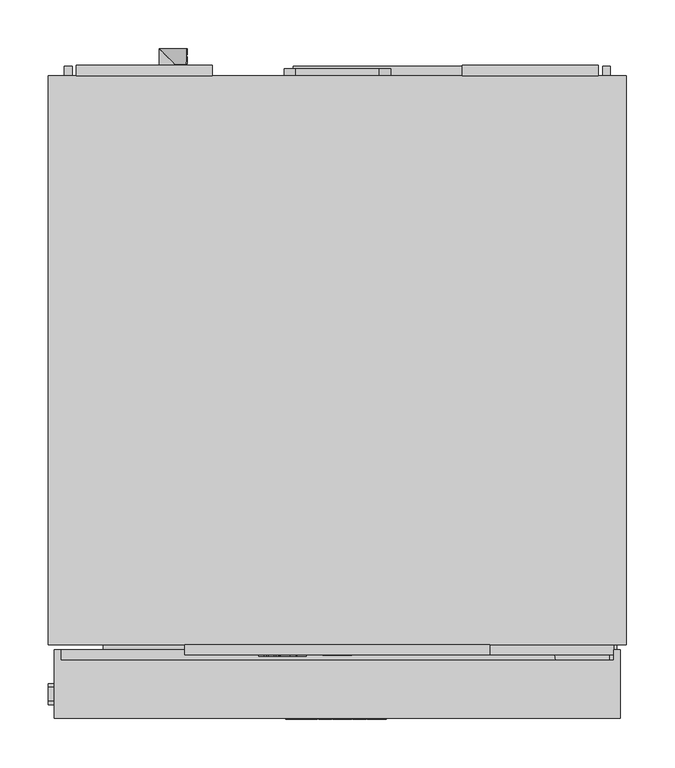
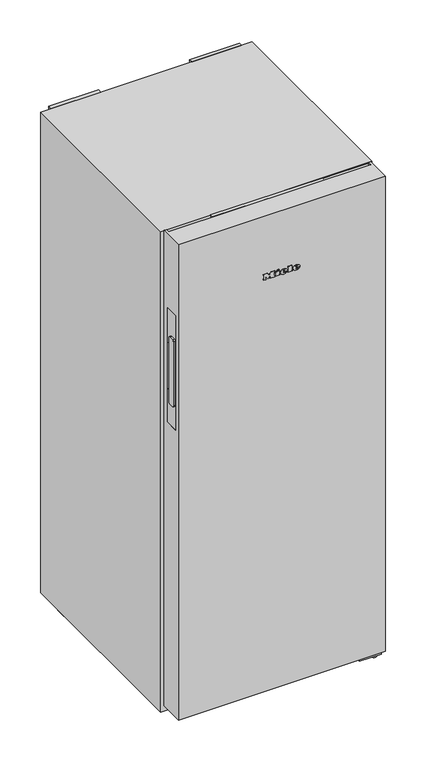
"""IFC4 building model written with IfcOpenShell, lengths in millimetres: proxy geometry, 11953500_EU1_FN4822D_WS : 37482244_EU1_11953500_FN4822D_WS."""

from ifc_helpers import new_model, si_unit, point, frame, frame_2d, origin, origin_with_axes, place, context, project, spatial, polyline, circle_curve, ellipse_curve, trimmed, segment, composite_curve, outline, extrude, faceted_brep, source, transform, mapped, element, save
from ifc_brep_helpers import plane_surface, cylinder_surface, revolved_surface, extruded_surface, advanced_brep


def specialty_equipment_0bd2b944(model_context):
    return source(origin(), model_context, "Body", "SolidModel", [
        extrude(outline(polyline([(15.0, -609.5), (-15.0, -609.5), (-15.0, -606.5), (15.0, -606.5), (15.0, -609.5)])), frame((0.0, 0.0, 1412.0), z_axis=(0.0, 0.0, 1.0), x_axis=(1.0, 0.0, 0.0)), (0.0, 0.0, 1.0), 28.0),
        extrude(outline(polyline([(1445.5, 105.0), (1445.5, -105.0), (1406.5, -105.0), (1406.5, 105.0), (1445.5, 105.0)]), holes=[polyline([(1440.0, -15.0), (1440.0, 15.0), (1412.0, 15.0), (1412.0, -15.0), (1440.0, -15.0)])]), frame((0.0, -608.5, 0.0), z_axis=(0.0, 1.0, 0.0), x_axis=(0.0, 0.0, 1.0)), (0.0, 0.0, 1.0), 2.0),
        faceted_brep([(157.5, -598.5, 1402.0), (157.5, -608.5, 1402.0), (-157.5, -608.5, 1402.0), (-157.5, -598.5, 1402.0), (157.5, -598.5, 1450.0), (-157.5, -598.5, 1450.0), (-157.5, -608.5, 1450.0), (157.5, -608.5, 1450.0), (-105.0, -608.5, 1445.5), (105.0, -608.5, 1445.5), (105.0, -608.5, 1406.5), (-105.0, -608.5, 1406.5), (105.0, -606.5, 1445.5), (-105.0, -606.5, 1445.5), (-105.0, -606.5, 1406.5), (105.0, -606.5, 1406.5)], [[[0, 1, 2, 3]], [[4, 5, 6, 7]], [[0, 3, 5, 4]], [[3, 2, 6, 5]], [[2, 1, 7, 6], [8, 9, 10, 11]], [[1, 0, 4, 7]], [[12, 13, 14, 15]], [[13, 12, 9, 8]], [[14, 13, 8, 11]], [[15, 14, 11, 10]], [[12, 15, 10, 9]]]),
        advanced_brep(
        [(39.0804776, -675.5, 1268.7956125), (39.0804776, -675.5, 1270.5126125), (50.4534776, -675.5, 1270.5126125), (30.6654776, -675.5, 1270.5126125), (35.3404776, -675.5, 1264.7666125), (50.1644776, -675.5, 1268.7956125), (45.0304776, -675.5, 1268.7956125), (40.9844776, -675.5, 1266.8916125), (39.0804776, -675.5, 1272.6886125), (39.0804776, -675.5, 1274.5416125), (41.9874776, -675.5, 1274.5416125), (41.9874776, -675.5, 1272.6886125), (39.0804776, -674.5, 1268.7956125), (40.9844776, -674.5, 1266.8916125), (45.0304776, -674.5, 1268.7956125), (50.1644776, -674.5, 1268.7956125), (35.3404776, -674.5, 1264.7666125), (30.6654776, -674.5, 1270.5126125), (50.4534776, -674.5, 1270.5126125), (39.0804776, -674.5, 1270.5126125), (39.0804776, -674.5, 1272.6886125), (41.9874776, -674.5, 1272.6886125), (41.9874776, -674.5, 1274.5416125), (39.0804776, -674.5, 1274.5416125)],
        [
            (0, 1),
            (1, 2),
            (2, 3, ellipse_curve(frame((40.5594776, -675.5, 1270.5126125), z_axis=(0.0, -1.0, 0.0), x_axis=(-1.0, 0.0, 0.0)), 9.894, 8.177)),
            (3, 4, circle_curve(frame((37.2445704, -675.5, 1271.0906125), z_axis=(0.0, -1.0, 0.0), x_axis=(0.0, 0.0, -1.0)), 6.6044337)),
            (4, 5, circle_curve(frame((40.361414, -675.5, 1275.5786125), z_axis=(0.0, -1.0, 0.0), x_axis=(0.0, 0.0, -1.0)), 11.9209541)),
            (5, 6),
            (6, 7, circle_curve(frame((41.8154776, -675.5, 1270.3766125), z_axis=(0.0, 1.0, 0.0), x_axis=(0.0, 0.0, -1.0)), 3.5827065)),
            (7, 0, circle_curve(frame((40.9844776, -675.5, 1268.7956125), z_axis=(0.0, 1.0, 0.0), x_axis=(0.0, 0.0, -1.0)), 1.904)),
            (8, 9),
            (9, 10, circle_curve(frame((40.5339776, -675.5, 1274.5416125), z_axis=(0.0, 1.0, 0.0), x_axis=(0.0, 0.0, -1.0)), 1.4535)),
            (10, 11),
            (11, 8),
            (12, 13, circle_curve(frame((40.9844776, -674.5, 1268.7956125), z_axis=(0.0, -1.0, 0.0), x_axis=(0.0, 0.0, -1.0)), 1.904)),
            (13, 14, circle_curve(frame((41.8154776, -674.5, 1270.3766125), z_axis=(0.0, -1.0, 0.0), x_axis=(0.0, 0.0, -1.0)), 3.5827065)),
            (14, 15),
            (15, 16, circle_curve(frame((40.361414, -674.5, 1275.5786125), z_axis=(0.0, 1.0, 0.0), x_axis=(0.0, 0.0, -1.0)), 11.9209541)),
            (16, 17, circle_curve(frame((37.2445704, -674.5, 1271.0906125), z_axis=(0.0, 1.0, 0.0), x_axis=(0.0, 0.0, -1.0)), 6.6044337)),
            (17, 18, ellipse_curve(frame((40.5594776, -674.5, 1270.5126125), z_axis=(0.0, 1.0, 0.0), x_axis=(-1.0, 0.0, 0.0)), 9.894, 8.177)),
            (18, 19),
            (19, 12),
            (20, 21),
            (21, 22),
            (22, 23, circle_curve(frame((40.5339776, -674.5, 1274.5416125), z_axis=(0.0, -1.0, 0.0), x_axis=(0.0, 0.0, -1.0)), 1.4535)),
            (23, 20),
            (0, 12),
            (19, 1),
            (18, 2),
            (5, 15),
            (14, 6),
            (17, 3),
            (13, 7),
            (16, 4),
            (8, 20),
            (23, 9),
            (22, 10),
            (21, 11),
        ],
        [
            plane_surface(frame((39.0804776, -675.5, 1270.5126125), z_axis=(0.0, -1.0, 0.0), x_axis=(0.0, 0.0, 1.0))),
            plane_surface(frame((39.0804776, -674.5, 1270.5126125), z_axis=(0.0, 1.0, 0.0), x_axis=(0.0, 0.0, -1.0))),
            plane_surface(frame((39.0804776, -675.5, 1268.7956125), z_axis=(1.0, 0.0, 0.0), x_axis=(0.0, 1.0, 0.0))),
            plane_surface(frame((39.0804776, -675.5, 1270.5126125), z_axis=(0.0, 0.0, -1.0), x_axis=(0.0, 1.0, 0.0))),
            plane_surface(frame((50.1644776, -675.5, 1268.7956125), z_axis=(0.0, 0.0, 1.0), x_axis=(0.0, 1.0, 0.0))),
            extruded_surface(trimmed(ellipse_curve(frame((40.5594776, -673.5, 1270.5126125), z_axis=(0.0, -1.0, 0.0), x_axis=(-1.0, 0.0, 0.0)), 9.894, 8.177), [point((50.4534776, -673.5, 1270.5126125))], [point((30.6654776, -673.5, 1270.5126125))], True, "CARTESIAN"), (0.0, -1.0, 0.0), 1.0),
            revolved_surface(polyline([(41.8154776, -674.5, 1266.7939059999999), (41.8154776, -675.5, 1266.7939059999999)]), (41.8154776, -674.5, 1270.3766125), (0.0, 1.0, 0.0)),
            revolved_surface(polyline([(40.9844776, -674.5, 1266.8916125), (40.9844776, -675.5, 1266.8916125)]), (40.9844776, -674.5, 1268.7956125), (0.0, 1.0, 0.0)),
            cylinder_surface(frame((37.2445704, -674.5, 1271.0906125), z_axis=(0.0, -1.0, 0.0), x_axis=(0.0, 0.0, -1.0)), 6.6044337),
            cylinder_surface(frame((40.361414, -674.5, 1275.5786125), z_axis=(0.0, -1.0, 0.0), x_axis=(0.0, 0.0, -1.0)), 11.9209541),
            plane_surface(frame((39.0804776, -675.5, 1272.6886125), z_axis=(1.0, 0.0, 0.0), x_axis=(0.0, 1.0, 0.0))),
            revolved_surface(polyline([(40.5339776, -674.5, 1273.0881124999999), (40.5339776, -675.5, 1273.0881124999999)]), (40.5339776, -674.5, 1274.5416125), (0.0, 1.0, 0.0)),
            plane_surface(frame((41.9874776, -675.5, 1274.5416125), z_axis=(-1.0, 0.0, 0.0), x_axis=(0.0, 1.0, 0.0))),
            plane_surface(frame((41.9874776, -675.5, 1272.6886125), z_axis=(0.0, 0.0, 1.0), x_axis=(0.0, 1.0, 0.0))),
        ],
        [
            (0, [[1, 2, 3, 4, 5, 6, 7, 8], [9, 10, 11, 12]]),
            (1, [[13, 14, 15, 16, 17, 18, 19, 20], [21, 22, 23, 24]]),
            (2, [[-1, 25, -20, 26]]),
            (3, [[-2, -26, -19, 27]]),
            (4, [[-6, 28, -15, 29]]),
            (5, [[-3, -27, -18, 30]]),
            (6, [[-7, -29, -14, 31]]),
            (7, [[-8, -31, -13, -25]]),
            (8, [[-4, -30, -17, 32]]),
            (9, [[-5, -32, -16, -28]]),
            (10, [[-9, 33, -24, 34]]),
            (11, [[-10, -34, -23, 35]]),
            (12, [[-11, -35, -22, 36]]),
            (13, [[-12, -36, -21, -33]]),
        ],
    ),
        advanced_brep(
        [(3.6014776, -675.5, 1268.7956125), (3.6014776, -675.5, 1270.5126125), (14.9744776, -675.5, 1270.5126125), (-4.8135224, -675.5, 1270.5126125), (-0.1385224, -675.5, 1264.7666125), (14.6854776, -675.5, 1268.7956125), (9.5514776, -675.5, 1268.7956125), (5.5054776, -675.5, 1266.8916125), (3.6014776, -675.5, 1272.6886125), (3.6014776, -675.5, 1274.5416125), (6.5084776, -675.5, 1274.5416125), (6.5084776, -675.5, 1272.6886125), (3.6014776, -674.5, 1268.7956125), (5.5054776, -674.5, 1266.8916125), (9.5514776, -674.5, 1268.7956125), (14.6854776, -674.5, 1268.7956125), (-0.1385224, -674.5, 1264.7666125), (-4.8135224, -674.5, 1270.5126125), (14.9744776, -674.5, 1270.5126125), (3.6014776, -674.5, 1270.5126125), (3.6014776, -674.5, 1272.6886125), (6.5084776, -674.5, 1272.6886125), (6.5084776, -674.5, 1274.5416125), (3.6014776, -674.5, 1274.5416125)],
        [
            (0, 1),
            (1, 2),
            (2, 3, ellipse_curve(frame((5.0804776, -675.5, 1270.5126125), z_axis=(0.0, -1.0, 0.0), x_axis=(-1.0, 0.0, 0.0)), 9.894, 8.177)),
            (3, 4, circle_curve(frame((1.7655704, -675.5, 1271.0906125), z_axis=(0.0, -1.0, 0.0), x_axis=(0.0, 0.0, -1.0)), 6.6044337)),
            (4, 5, circle_curve(frame((4.882414, -675.5, 1275.5786125), z_axis=(0.0, -1.0, 0.0), x_axis=(0.0, 0.0, -1.0)), 11.9209541)),
            (5, 6),
            (6, 7, circle_curve(frame((6.3364776, -675.5, 1270.3766125), z_axis=(0.0, 1.0, 0.0), x_axis=(0.0, 0.0, -1.0)), 3.5827065)),
            (7, 0, circle_curve(frame((5.5054776, -675.5, 1268.7956125), z_axis=(0.0, 1.0, 0.0), x_axis=(0.0, 0.0, -1.0)), 1.904)),
            (8, 9),
            (9, 10, circle_curve(frame((5.0549776, -675.5, 1274.5416125), z_axis=(0.0, 1.0, 0.0), x_axis=(0.0, 0.0, -1.0)), 1.4535)),
            (10, 11),
            (11, 8),
            (12, 13, circle_curve(frame((5.5054776, -674.5, 1268.7956125), z_axis=(0.0, -1.0, 0.0), x_axis=(0.0, 0.0, -1.0)), 1.904)),
            (13, 14, circle_curve(frame((6.3364776, -674.5, 1270.3766125), z_axis=(0.0, -1.0, 0.0), x_axis=(0.0, 0.0, -1.0)), 3.5827065)),
            (14, 15),
            (15, 16, circle_curve(frame((4.882414, -674.5, 1275.5786125), z_axis=(0.0, 1.0, 0.0), x_axis=(0.0, 0.0, -1.0)), 11.9209541)),
            (16, 17, circle_curve(frame((1.7655704, -674.5, 1271.0906125), z_axis=(0.0, 1.0, 0.0), x_axis=(0.0, 0.0, -1.0)), 6.6044337)),
            (17, 18, ellipse_curve(frame((5.0804776, -674.5, 1270.5126125), z_axis=(0.0, 1.0, 0.0), x_axis=(-1.0, 0.0, 0.0)), 9.894, 8.177)),
            (18, 19),
            (19, 12),
            (20, 21),
            (21, 22),
            (22, 23, circle_curve(frame((5.0549776, -674.5, 1274.5416125), z_axis=(0.0, -1.0, 0.0), x_axis=(0.0, 0.0, -1.0)), 1.4535)),
            (23, 20),
            (0, 12),
            (19, 1),
            (18, 2),
            (5, 15),
            (14, 6),
            (17, 3),
            (13, 7),
            (16, 4),
            (8, 20),
            (23, 9),
            (22, 10),
            (21, 11),
        ],
        [
            plane_surface(frame((3.6014776, -675.5, 1270.5126125), z_axis=(0.0, -1.0, 0.0), x_axis=(0.0, 0.0, 1.0))),
            plane_surface(frame((3.6014776, -674.5, 1270.5126125), z_axis=(0.0, 1.0, 0.0), x_axis=(0.0, 0.0, -1.0))),
            plane_surface(frame((3.6014776, -675.5, 1268.7956125), z_axis=(1.0, 0.0, 0.0), x_axis=(0.0, 1.0, 0.0))),
            plane_surface(frame((3.6014776, -675.5, 1270.5126125), z_axis=(0.0, 0.0, -1.0), x_axis=(0.0, 1.0, 0.0))),
            plane_surface(frame((14.6854776, -675.5, 1268.7956125), z_axis=(0.0, 0.0, 1.0), x_axis=(0.0, 1.0, 0.0))),
            extruded_surface(trimmed(ellipse_curve(frame((5.0804776, -673.5, 1270.5126125), z_axis=(0.0, -1.0, 0.0), x_axis=(-1.0, 0.0, 0.0)), 9.894, 8.177), [point((14.9744776, -673.5, 1270.5126125))], [point((-4.8135224, -673.5, 1270.5126125))], True, "CARTESIAN"), (0.0, -1.0, 0.0), 1.0),
            revolved_surface(polyline([(6.3364776, -674.5, 1266.7939059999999), (6.3364776, -675.5, 1266.7939059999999)]), (6.3364776, -674.5, 1270.3766125), (0.0, 1.0, 0.0)),
            revolved_surface(polyline([(5.5054776, -674.5, 1266.8916125), (5.5054776, -675.5, 1266.8916125)]), (5.5054776, -674.5, 1268.7956125), (0.0, 1.0, 0.0)),
            cylinder_surface(frame((1.7655704, -674.5, 1271.0906125), z_axis=(0.0, -1.0, 0.0), x_axis=(0.0, 0.0, -1.0)), 6.6044337),
            cylinder_surface(frame((4.882414, -674.5, 1275.5786125), z_axis=(0.0, -1.0, 0.0), x_axis=(0.0, 0.0, -1.0)), 11.9209541),
            plane_surface(frame((3.6014776, -675.5, 1272.6886125), z_axis=(1.0, 0.0, 0.0), x_axis=(0.0, 1.0, 0.0))),
            revolved_surface(polyline([(5.0549776, -674.5, 1273.0881124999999), (5.0549776, -675.5, 1273.0881124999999)]), (5.0549776, -674.5, 1274.5416125), (0.0, 1.0, 0.0)),
            plane_surface(frame((6.5084776, -675.5, 1274.5416125), z_axis=(-1.0, 0.0, 0.0), x_axis=(0.0, 1.0, 0.0))),
            plane_surface(frame((6.5084776, -675.5, 1272.6886125), z_axis=(0.0, 0.0, 1.0), x_axis=(0.0, 1.0, 0.0))),
        ],
        [
            (0, [[1, 2, 3, 4, 5, 6, 7, 8], [9, 10, 11, 12]]),
            (1, [[13, 14, 15, 16, 17, 18, 19, 20], [21, 22, 23, 24]]),
            (2, [[-1, 25, -20, 26]]),
            (3, [[-2, -26, -19, 27]]),
            (4, [[-6, 28, -15, 29]]),
            (5, [[-3, -27, -18, 30]]),
            (6, [[-7, -29, -14, 31]]),
            (7, [[-8, -31, -13, -25]]),
            (8, [[-4, -30, -17, 32]]),
            (9, [[-5, -32, -16, -28]]),
            (10, [[-9, 33, -24, 34]]),
            (11, [[-10, -34, -23, 35]]),
            (12, [[-11, -35, -22, 36]]),
            (13, [[-12, -36, -21, -33]]),
        ],
    ),
        extrude(outline(polyline([(1280.7636125, -14.9795224), (1278.0096125, -13.6875224), (1280.6956125, -7.9245224), (1283.4496125, -9.1995224), (1280.7636125, -14.9795224)])), frame((0.0, -675.5, 0.0), z_axis=(0.0, 1.0, 0.0), x_axis=(0.0, 0.0, 1.0)), (0.0, 0.0, 1.0), 1.0),
        extrude(outline(polyline([(1277.6356125, -19.1785224), (1274.5926125, -19.1785224), (1274.5926125, -17.1555224), (1267.6226125, -17.1555224), (1267.6226125, -19.1785224), (1264.7666125, -19.1785224), (1264.7666125, -5.7655224), (1267.6226125, -5.7655224), (1267.6226125, -7.7375224), (1277.6356125, -7.7375224), (1277.6356125, -19.1785224)])), frame((0.0, -675.5, 0.0), z_axis=(0.0, 1.0, 0.0), x_axis=(0.0, 0.0, 1.0)), (0.0, 0.0, 1.0), 1.0),
        extrude(outline(polyline([(1278.9956125, 15.9264776), (1278.9956125, 17.9664776), (1267.6226125, 17.9664776), (1267.6226125, 15.9264776), (1264.7666125, 15.9264776), (1264.7666125, 29.7134776), (1267.6226125, 29.7134776), (1267.6226125, 27.6224776), (1281.7666125, 27.6224776), (1281.7666125, 15.9264776), (1278.9956125, 15.9264776)])), frame((0.0, -675.5, 0.0), z_axis=(0.0, 1.0, 0.0), x_axis=(0.0, 0.0, 1.0)), (0.0, 0.0, 1.0), 1.0),
        extrude(outline(polyline([(1278.9956125, -53.0595224), (1278.9956125, -51.0025224), (1267.6226125, -51.0025224), (1267.6226125, -53.0595224), (1264.7666125, -53.0595224), (1264.7666125, -45.5795224), (1267.6226125, -45.5795224), (1267.6226125, -47.6195224), (1274.7967372, -47.6195224), (1264.7666125, -40.0205224), (1275.2068348, -32.3875224), (1267.6226125, -32.3875224), (1267.6226125, -34.4785224), (1264.7666125, -34.4785224), (1264.7666125, -20.9125224), (1267.6226125, -20.9125224), (1267.6226125, -23.0715224), (1278.9956125, -23.0715224), (1278.9956125, -20.9125224), (1281.7666125, -20.9125224), (1281.7666125, -31.2655224), (1275.3916125, -36.2295224), (1281.7666125, -41.2105224), (1281.7666125, -53.0595224), (1278.9956125, -53.0595224)])), frame((0.0, -675.5, 0.0), z_axis=(0.0, 1.0, 0.0), x_axis=(0.0, 0.0, 1.0)), (0.0, 0.0, 1.0), 1.0),
        advanced_brep(
        [(-37.64, -610.5, 1428.896), (-37.64, -610.5, 1429.704), (-32.288, -610.5, 1429.704), (-41.6, -610.5, 1429.704), (-39.4, -610.5, 1427.0), (-32.424, -610.5, 1428.896), (-34.84, -610.5, 1428.896), (-36.744, -610.5, 1428.0), (-37.64, -610.5, 1430.728), (-37.64, -610.5, 1431.6), (-36.272, -610.5, 1431.6), (-36.272, -610.5, 1430.728), (-37.64, -609.5, 1428.896), (-36.744, -609.5, 1428.0), (-34.84, -609.5, 1428.896), (-32.424, -609.5, 1428.896), (-39.4, -609.5, 1427.0), (-41.6, -609.5, 1429.704), (-32.288, -609.5, 1429.704), (-37.64, -609.5, 1429.704), (-37.64, -609.5, 1430.728), (-36.272, -609.5, 1430.728), (-36.272, -609.5, 1431.6), (-37.64, -609.5, 1431.6)],
        [
            (0, 1),
            (1, 2),
            (2, 3, ellipse_curve(frame((-36.944, -610.5, 1429.704), z_axis=(0.0, -1.0, 0.0), x_axis=(-1.0, 0.0, 0.0)), 4.656, 3.848)),
            (3, 4, circle_curve(frame((-38.5039564, -610.5, 1429.976), z_axis=(0.0, -1.0, 0.0), x_axis=(0.0, 0.0, -1.0)), 3.1079688)),
            (4, 5, circle_curve(frame((-37.0372064, -610.5, 1432.088), z_axis=(0.0, -1.0, 0.0), x_axis=(0.0, 0.0, -1.0)), 5.6098607)),
            (5, 6),
            (6, 7, circle_curve(frame((-36.3529412, -610.5, 1429.64), z_axis=(0.0, 1.0, 0.0), x_axis=(0.0, 0.0, -1.0)), 1.6859795)),
            (7, 0, circle_curve(frame((-36.744, -610.5, 1428.896), z_axis=(0.0, 1.0, 0.0), x_axis=(0.0, 0.0, -1.0)), 0.896)),
            (8, 9),
            (9, 10, circle_curve(frame((-36.956, -610.5, 1431.6), z_axis=(0.0, 1.0, 0.0), x_axis=(0.0, 0.0, -1.0)), 0.684)),
            (10, 11),
            (11, 8),
            (12, 13, circle_curve(frame((-36.744, -609.5, 1428.896), z_axis=(0.0, -1.0, 0.0), x_axis=(0.0, 0.0, -1.0)), 0.896)),
            (13, 14, circle_curve(frame((-36.3529412, -609.5, 1429.64), z_axis=(0.0, -1.0, 0.0), x_axis=(0.0, 0.0, -1.0)), 1.6859795)),
            (14, 15),
            (15, 16, circle_curve(frame((-37.0372064, -609.5, 1432.088), z_axis=(0.0, 1.0, 0.0), x_axis=(0.0, 0.0, -1.0)), 5.6098607)),
            (16, 17, circle_curve(frame((-38.5039564, -609.5, 1429.976), z_axis=(0.0, 1.0, 0.0), x_axis=(0.0, 0.0, -1.0)), 3.1079688)),
            (17, 18, ellipse_curve(frame((-36.944, -609.5, 1429.704), z_axis=(0.0, 1.0, 0.0), x_axis=(-1.0, 0.0, 0.0)), 4.656, 3.848)),
            (18, 19),
            (19, 12),
            (20, 21),
            (21, 22),
            (22, 23, circle_curve(frame((-36.956, -609.5, 1431.6), z_axis=(0.0, -1.0, 0.0), x_axis=(0.0, 0.0, -1.0)), 0.684)),
            (23, 20),
            (0, 12),
            (19, 1),
            (18, 2),
            (5, 15),
            (14, 6),
            (17, 3),
            (13, 7),
            (16, 4),
            (8, 20),
            (23, 9),
            (22, 10),
            (21, 11),
        ],
        [
            plane_surface(frame((-37.64, -610.5, 1429.704), z_axis=(0.0, -1.0, 0.0), x_axis=(0.0, 0.0, 1.0))),
            plane_surface(frame((-37.64, -609.5, 1429.704), z_axis=(0.0, 1.0, 0.0), x_axis=(0.0, 0.0, -1.0))),
            plane_surface(frame((-37.64, -610.5, 1428.896), z_axis=(1.0, 0.0, 0.0), x_axis=(0.0, 1.0, 0.0))),
            plane_surface(frame((-37.64, -610.5, 1429.704), z_axis=(0.0, 0.0, -1.0), x_axis=(0.0, 1.0, 0.0))),
            plane_surface(frame((-32.424, -610.5, 1428.896), z_axis=(0.0, 0.0, 1.0), x_axis=(0.0, 1.0, 0.0))),
            extruded_surface(trimmed(ellipse_curve(frame((-36.944, -608.5, 1429.704), z_axis=(0.0, -1.0, 0.0), x_axis=(-1.0, 0.0, 0.0)), 4.656, 3.848), [point((-32.288, -608.5, 1429.704))], [point((-41.6, -608.5, 1429.704))], True, "CARTESIAN"), (0.0, -1.0, 0.0), 1.0),
            revolved_surface(polyline([(-36.3529412, -609.5, 1427.9540205), (-36.3529412, -610.5, 1427.9540205)]), (-36.3529412, -609.5, 1429.64), (0.0, 1.0, 0.0)),
            revolved_surface(polyline([(-36.744, -609.5, 1428.0), (-36.744, -610.5, 1428.0)]), (-36.744, -609.5, 1428.896), (0.0, 1.0, 0.0)),
            cylinder_surface(frame((-38.5039564, -609.5, 1429.976), z_axis=(0.0, -1.0, 0.0), x_axis=(0.0, 0.0, -1.0)), 3.1079688),
            cylinder_surface(frame((-37.0372064, -609.5, 1432.088), z_axis=(0.0, -1.0, 0.0), x_axis=(0.0, 0.0, -1.0)), 5.6098607),
            plane_surface(frame((-37.64, -610.5, 1430.728), z_axis=(1.0, 0.0, 0.0), x_axis=(0.0, 1.0, 0.0))),
            revolved_surface(polyline([(-36.956, -609.5, 1430.916), (-36.956, -610.5, 1430.916)]), (-36.956, -609.5, 1431.6), (0.0, 1.0, 0.0)),
            plane_surface(frame((-36.272, -610.5, 1431.6), z_axis=(-1.0, 0.0, 0.0), x_axis=(0.0, 1.0, 0.0))),
            plane_surface(frame((-36.272, -610.5, 1430.728), z_axis=(0.0, 0.0, 1.0), x_axis=(0.0, 1.0, 0.0))),
        ],
        [
            (0, [[1, 2, 3, 4, 5, 6, 7, 8], [9, 10, 11, 12]]),
            (1, [[13, 14, 15, 16, 17, 18, 19, 20], [21, 22, 23, 24]]),
            (2, [[-1, 25, -20, 26]]),
            (3, [[-2, -26, -19, 27]]),
            (4, [[-6, 28, -15, 29]]),
            (5, [[-3, -27, -18, 30]]),
            (6, [[-7, -29, -14, 31]]),
            (7, [[-8, -31, -13, -25]]),
            (8, [[-4, -30, -17, 32]]),
            (9, [[-5, -32, -16, -28]]),
            (10, [[-9, 33, -24, 34]]),
            (11, [[-10, -34, -23, 35]]),
            (12, [[-11, -35, -22, 36]]),
            (13, [[-12, -36, -21, -33]]),
        ],
    ),
        advanced_brep(
        [(-54.336, -610.5, 1428.896), (-54.336, -610.5, 1429.704), (-48.984, -610.5, 1429.704), (-58.296, -610.5, 1429.704), (-56.096, -610.5, 1427.0), (-49.12, -610.5, 1428.896), (-51.536, -610.5, 1428.896), (-53.44, -610.5, 1428.0), (-54.336, -610.5, 1430.728), (-54.336, -610.5, 1431.6), (-52.968, -610.5, 1431.6), (-52.968, -610.5, 1430.728), (-54.336, -609.5, 1428.896), (-53.44, -609.5, 1428.0), (-51.536, -609.5, 1428.896), (-49.12, -609.5, 1428.896), (-56.096, -609.5, 1427.0), (-58.296, -609.5, 1429.704), (-48.984, -609.5, 1429.704), (-54.336, -609.5, 1429.704), (-54.336, -609.5, 1430.728), (-52.968, -609.5, 1430.728), (-52.968, -609.5, 1431.6), (-54.336, -609.5, 1431.6)],
        [
            (0, 1),
            (1, 2),
            (2, 3, ellipse_curve(frame((-53.64, -610.5, 1429.704), z_axis=(0.0, -1.0, 0.0), x_axis=(-1.0, 0.0, 0.0)), 4.656, 3.848)),
            (3, 4, circle_curve(frame((-55.1999564, -610.5, 1429.976), z_axis=(0.0, -1.0, 0.0), x_axis=(0.0, 0.0, -1.0)), 3.1079688)),
            (4, 5, circle_curve(frame((-53.7332064, -610.5, 1432.088), z_axis=(0.0, -1.0, 0.0), x_axis=(0.0, 0.0, -1.0)), 5.6098607)),
            (5, 6),
            (6, 7, circle_curve(frame((-53.0489412, -610.5, 1429.64), z_axis=(0.0, 1.0, 0.0), x_axis=(0.0, 0.0, -1.0)), 1.6859795)),
            (7, 0, circle_curve(frame((-53.44, -610.5, 1428.896), z_axis=(0.0, 1.0, 0.0), x_axis=(0.0, 0.0, -1.0)), 0.896)),
            (8, 9),
            (9, 10, circle_curve(frame((-53.652, -610.5, 1431.6), z_axis=(0.0, 1.0, 0.0), x_axis=(0.0, 0.0, -1.0)), 0.684)),
            (10, 11),
            (11, 8),
            (12, 13, circle_curve(frame((-53.44, -609.5, 1428.896), z_axis=(0.0, -1.0, 0.0), x_axis=(0.0, 0.0, -1.0)), 0.896)),
            (13, 14, circle_curve(frame((-53.0489412, -609.5, 1429.64), z_axis=(0.0, -1.0, 0.0), x_axis=(0.0, 0.0, -1.0)), 1.6859795)),
            (14, 15),
            (15, 16, circle_curve(frame((-53.7332064, -609.5, 1432.088), z_axis=(0.0, 1.0, 0.0), x_axis=(0.0, 0.0, -1.0)), 5.6098607)),
            (16, 17, circle_curve(frame((-55.1999564, -609.5, 1429.976), z_axis=(0.0, 1.0, 0.0), x_axis=(0.0, 0.0, -1.0)), 3.1079688)),
            (17, 18, ellipse_curve(frame((-53.64, -609.5, 1429.704), z_axis=(0.0, 1.0, 0.0), x_axis=(-1.0, 0.0, 0.0)), 4.656, 3.848)),
            (18, 19),
            (19, 12),
            (20, 21),
            (21, 22),
            (22, 23, circle_curve(frame((-53.652, -609.5, 1431.6), z_axis=(0.0, -1.0, 0.0), x_axis=(0.0, 0.0, -1.0)), 0.684)),
            (23, 20),
            (0, 12),
            (19, 1),
            (18, 2),
            (5, 15),
            (14, 6),
            (17, 3),
            (13, 7),
            (16, 4),
            (8, 20),
            (23, 9),
            (22, 10),
            (21, 11),
        ],
        [
            plane_surface(frame((-54.336, -610.5, 1429.704), z_axis=(0.0, -1.0, 0.0), x_axis=(0.0, 0.0, 1.0))),
            plane_surface(frame((-54.336, -609.5, 1429.704), z_axis=(0.0, 1.0, 0.0), x_axis=(0.0, 0.0, -1.0))),
            plane_surface(frame((-54.336, -610.5, 1428.896), z_axis=(1.0, 0.0, 0.0), x_axis=(0.0, 1.0, 0.0))),
            plane_surface(frame((-54.336, -610.5, 1429.704), z_axis=(0.0, 0.0, -1.0), x_axis=(0.0, 1.0, 0.0))),
            plane_surface(frame((-49.12, -610.5, 1428.896), z_axis=(0.0, 0.0, 1.0), x_axis=(0.0, 1.0, 0.0))),
            extruded_surface(trimmed(ellipse_curve(frame((-53.64, -608.5, 1429.704), z_axis=(0.0, -1.0, 0.0), x_axis=(-1.0, 0.0, 0.0)), 4.656, 3.848), [point((-48.984, -608.5, 1429.704))], [point((-58.296, -608.5, 1429.704))], True, "CARTESIAN"), (0.0, -1.0, 0.0), 1.0),
            revolved_surface(polyline([(-53.0489412, -609.5, 1427.9540205), (-53.0489412, -610.5, 1427.9540205)]), (-53.0489412, -609.5, 1429.64), (0.0, 1.0, 0.0)),
            revolved_surface(polyline([(-53.44, -609.5, 1428.0), (-53.44, -610.5, 1428.0)]), (-53.44, -609.5, 1428.896), (0.0, 1.0, 0.0)),
            cylinder_surface(frame((-55.1999564, -609.5, 1429.976), z_axis=(0.0, -1.0, 0.0), x_axis=(0.0, 0.0, -1.0)), 3.1079688),
            cylinder_surface(frame((-53.7332064, -609.5, 1432.088), z_axis=(0.0, -1.0, 0.0), x_axis=(0.0, 0.0, -1.0)), 5.6098607),
            plane_surface(frame((-54.336, -610.5, 1430.728), z_axis=(1.0, 0.0, 0.0), x_axis=(0.0, 1.0, 0.0))),
            revolved_surface(polyline([(-53.652, -609.5, 1430.916), (-53.652, -610.5, 1430.916)]), (-53.652, -609.5, 1431.6), (0.0, 1.0, 0.0)),
            plane_surface(frame((-52.968, -610.5, 1431.6), z_axis=(-1.0, 0.0, 0.0), x_axis=(0.0, 1.0, 0.0))),
            plane_surface(frame((-52.968, -610.5, 1430.728), z_axis=(0.0, 0.0, 1.0), x_axis=(0.0, 1.0, 0.0))),
        ],
        [
            (0, [[1, 2, 3, 4, 5, 6, 7, 8], [9, 10, 11, 12]]),
            (1, [[13, 14, 15, 16, 17, 18, 19, 20], [21, 22, 23, 24]]),
            (2, [[-1, 25, -20, 26]]),
            (3, [[-2, -26, -19, 27]]),
            (4, [[-6, 28, -15, 29]]),
            (5, [[-3, -27, -18, 30]]),
            (6, [[-7, -29, -14, 31]]),
            (7, [[-8, -31, -13, -25]]),
            (8, [[-4, -30, -17, 32]]),
            (9, [[-5, -32, -16, -28]]),
            (10, [[-9, 33, -24, 34]]),
            (11, [[-10, -34, -23, 35]]),
            (12, [[-11, -35, -22, 36]]),
            (13, [[-12, -36, -21, -33]]),
        ],
    ),
        extrude(outline(polyline([(1434.528, -63.08), (1433.232, -62.472), (1434.496, -59.76), (1435.792, -60.36), (1434.528, -63.08)])), frame((0.0, -610.5, 0.0), z_axis=(0.0, 1.0, 0.0), x_axis=(0.0, 0.0, 1.0)), (0.0, 0.0, 1.0), 1.0),
        extrude(outline(polyline([(1433.056, -65.056), (1431.624, -65.056), (1431.624, -64.104), (1428.344, -64.104), (1428.344, -65.056), (1427.0, -65.056), (1427.0, -58.744), (1428.344, -58.744), (1428.344, -59.672), (1433.056, -59.672), (1433.056, -65.056)])), frame((0.0, -610.5, 0.0), z_axis=(0.0, 1.0, 0.0), x_axis=(0.0, 0.0, 1.0)), (0.0, 0.0, 1.0), 1.0),
        extrude(outline(polyline([(1433.696, -48.536), (1433.696, -47.576), (1428.344, -47.576), (1428.344, -48.536), (1427.0, -48.536), (1427.0, -42.048), (1428.344, -42.048), (1428.344, -43.032), (1435.0, -43.032), (1435.0, -48.536), (1433.696, -48.536)])), frame((0.0, -610.5, 0.0), z_axis=(0.0, 1.0, 0.0), x_axis=(0.0, 0.0, 1.0)), (0.0, 0.0, 1.0), 1.0),
        extrude(outline(polyline([(1433.696, -81.0), (1433.696, -80.032), (1428.344, -80.032), (1428.344, -81.0), (1427.0, -81.0), (1427.0, -77.48), (1428.344, -77.48), (1428.344, -78.44), (1431.7471247, -78.44), (1427.0, -74.864), (1431.8152223, -71.272), (1428.344, -71.272), (1428.344, -72.256), (1427.0, -72.256), (1427.0, -65.872), (1428.344, -65.872), (1428.344, -66.888), (1433.696, -66.888), (1433.696, -65.872), (1435.0, -65.872), (1435.0, -70.744), (1432.0, -73.08), (1435.0, -75.424), (1435.0, -81.0), (1433.696, -81.0)])), frame((0.0, -610.5, 0.0), z_axis=(0.0, 1.0, 0.0), x_axis=(0.0, 0.0, 1.0)), (0.0, 0.0, 1.0), 1.0),
        extrude(outline(polyline([(-42.8527823, 0.0), (-48.1304417, 3.2708192), (-29.8908031, 3.2708192), (-34.9274229, 0.0), (-42.8527823, 0.0)])), frame((238.5469678, 0.0, 0.0), z_axis=(1.0, 0.0, 0.0), x_axis=(0.0, 1.0, 0.0)), (0.0, 0.0, 1.0), 15.1632647),
        extrude(outline(polyline([(-42.8527823, 0.0), (-48.1304417, 3.2708192), (-29.8908031, 3.2708192), (-34.9274229, 0.0), (-42.8527823, 0.0)])), frame((-253.7102325, 0.0, 0.0), z_axis=(1.0, 0.0, 0.0), x_axis=(0.0, 1.0, 0.0)), (0.0, 0.0, 1.0), 15.1632647),
        extrude(outline(polyline([(2.1227397, 65.0), (2.1227397, 75.045631), (9.343037, 75.045631), (9.343037, 73.7899271), (3.3784436, 73.7899271), (3.3784436, 70.8076304), (9.029111, 70.8076304), (9.029111, 69.5519266), (3.3784436, 69.5519266), (3.3784436, 66.2557039), (9.5, 66.2557039), (9.5, 65.0), (2.1227397, 65.0)])), frame((-156.0615355, 0.0, 0.0), z_axis=(1.0, 0.0, 0.0), x_axis=(0.0, 1.0, 0.0)), (0.0, 0.0, 1.0), 1.0),
        extrude(outline(polyline([(11.3835558, 65.0), (11.3835558, 75.045631), (12.6392597, 75.045631), (12.6392597, 66.2557039), (17.6620752, 66.2557039), (17.6620752, 65.0), (11.3835558, 65.0)])), frame((-156.0615355, 0.0, 0.0), z_axis=(1.0, 0.0, 0.0), x_axis=(0.0, 1.0, 0.0)), (0.0, 0.0, 1.0), 1.0),
        advanced_brep(
        [(-168.0615355, -10.5, 70.0), (-184.0615355, -10.5, 70.0), (-168.0615355, 1.5, 70.0), (-184.0615355, 17.5, 70.0), (-156.0615355, 1.5, 70.0), (-156.0615355, 17.5, 70.0)],
        [
            (0, 1, circle_curve(frame((-176.0615355, -10.5, 70.0), z_axis=(0.0, -1.0, 0.0), x_axis=(-1.0, 0.0, 0.0)), 8.0)),
            (1, 0, circle_curve(frame((-176.0615355, -10.5, 70.0), z_axis=(0.0, -1.0, 0.0), x_axis=(-1.0, 0.0, 0.0)), 8.0)),
            (0, 2),
            (2, 3, ellipse_curve(frame((-176.0615355, 9.5, 70.0), z_axis=(-0.7071067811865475, -0.7071067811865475, 0.0), x_axis=(0.7071067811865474, -0.7071067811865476, 0.0)), 11.3137085, 8.0)),
            (3, 1),
            (3, 2, ellipse_curve(frame((-176.0615355, 9.5, 70.0), z_axis=(-0.7071067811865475, -0.7071067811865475, 0.0), x_axis=(0.7071067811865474, -0.7071067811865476, 0.0)), 11.3137085, 8.0)),
            (4, 5, circle_curve(frame((-156.0615355, 9.5, 70.0), z_axis=(1.0, 0.0, 0.0), x_axis=(0.0, 1.0, 0.0)), 8.0)),
            (5, 4, circle_curve(frame((-156.0615355, 9.5, 70.0), z_axis=(1.0, 0.0, 0.0), x_axis=(0.0, 1.0, 0.0)), 8.0)),
            (2, 4),
            (5, 3),
        ],
        [
            plane_surface(frame((-176.0615355, -10.5, 0.0), z_axis=(0.0, -1.0, 0.0), x_axis=(0.0, 0.0, 1.0))),
            cylinder_surface(frame((-176.0615355, -10.5, 70.0), z_axis=(0.0, -1.0, 0.0), x_axis=(-1.0, 0.0, 0.0)), 8.0),
            plane_surface(frame((-156.0615355, 9.5, 0.0), z_axis=(1.0, 0.0, 0.0), x_axis=(0.0, 0.0, 1.0))),
            cylinder_surface(frame((-176.0615355, 9.5, 70.0), z_axis=(-1.0, 0.0, 0.0), x_axis=(0.0, 1.0, 0.0)), 8.0),
        ],
        [
            (0, [[1, 2]]),
            (1, [[-1, 3, 4, 5]]),
            (1, [[-2, -5, 6, -3]]),
            (2, [[7, 8]]),
            (3, [[-4, 9, -8, 10]]),
            (3, [[-6, -10, -7, -9]]),
        ],
    ),
        extrude(outline(polyline([(-118.9841834, 15.0), (-62.9841834, 15.0), (-75.5706779, 0.0), (-106.3976889, 0.0), (-118.9841834, 15.0)])), frame((-288.5, 0.0, 0.0), z_axis=(1.0, 0.0, 0.0), x_axis=(0.0, 1.0, 0.0)), (0.0, 0.0, 1.0), 16.0),
        extrude(outline(polyline([(-118.9841834, 15.0), (-62.9841834, 15.0), (-75.5706779, 0.0), (-106.3976889, 0.0), (-118.9841834, 15.0)])), frame((272.5, 0.0, 0.0), z_axis=(1.0, 0.0, 0.0), x_axis=(0.0, 1.0, 0.0)), (0.0, 0.0, 1.0), 16.0),
        extrude(outline(polyline([(281.8051758, -10.5), (274.2947998, -10.5), (274.2947998, -0.5), (281.8051758, -0.5), (281.8051758, -10.5)])), frame((0.0, 0.0, 239.4947815), z_axis=(0.0, 0.0, 1.0), x_axis=(1.0, 0.0, 0.0)), (0.0, 0.0, 1.0), 18.4103699),
        extrude(outline(polyline([(-274.0827332, -10.5), (-282.1051331, -10.5), (-282.1051331, -0.5), (-274.0827332, -0.5), (-274.0827332, -10.5)])), frame((0.0, 0.0, 239.4947815), z_axis=(0.0, 0.0, 1.0), x_axis=(1.0, 0.0, 0.0)), (0.0, 0.0, 1.0), 18.3224792),
        extrude(outline(polyline([(190.0, 177.5), (133.0, 177.5), (133.0, -45.5), (64.0, -45.5), (64.0, 258.5), (190.0, 258.5), (190.0, 177.5)])), frame((0.0, -10.5, 0.0), z_axis=(0.0, 1.0, 0.0), x_axis=(0.0, 0.0, 1.0)), (0.0, 0.0, 1.0), 10.0),
        extrude(outline(polyline([(269.5372046, -10.5), (129.0, -10.5), (129.0, 0.0), (269.5372046, 0.0), (269.5372046, -10.5)])), frame((0.0, 0.0, 1426.0), z_axis=(0.0, 0.0, 1.0), x_axis=(1.0, 0.0, 0.0)), (0.0, 0.0, 1.0), 24.0),
        extrude(outline(polyline([(-129.0, -10.5), (-269.5372046, -10.5), (-269.5372046, 0.0), (-129.0, 0.0), (-129.0, -10.5)])), frame((0.0, 0.0, 1426.0), z_axis=(0.0, 0.0, 1.0), x_axis=(1.0, 0.0, 0.0)), (0.0, 0.0, 1.0), 24.0),
        extrude(outline(polyline([(64.0, -159.5), (-64.0, -159.5), (-64.0, -71.5), (64.0, -71.5), (64.0, -159.5)])), frame((0.0, 0.0, 1236.0), z_axis=(0.0, 0.0, 1.0), x_axis=(1.0, 0.0, 0.0)), (0.0, 0.0, 1.0), 177.6535004),
        extrude(outline(polyline([(55.0, -521.5), (55.0, -575.5), (-55.0, -575.5), (-55.0, -521.5), (55.0, -521.5)])), frame((0.0, 0.0, 1359.0), z_axis=(0.0, 0.0, 1.0), x_axis=(1.0, 0.0, 0.0)), (0.0, 0.0, 1.0), 1.0),
        extrude(outline(composite_curve([segment(trimmed(circle_curve(frame_2d((-248.75, -584.5)), 10.0), [point((-258.75, -584.5))], [point((-238.75, -584.5))], False, "CARTESIAN"), True, "CONTINUOUS"), segment(trimmed(circle_curve(frame_2d((-248.75, -584.5)), 10.0), [point((-238.75, -584.5))], [point((-258.75, -584.5))], False, "CARTESIAN"), True, "CONTINUOUS")], self_intersect=False)), origin_with_axes(), (0.0, 0.0, 1.0), 15.0),
        extrude(outline(composite_curve([segment(trimmed(circle_curve(frame_2d((248.75, -584.4761218)), 10.0), [point((238.75, -584.4761218))], [point((258.75, -584.4761218))], False, "CARTESIAN"), True, "CONTINUOUS"), segment(trimmed(circle_curve(frame_2d((248.75, -584.4761218)), 10.0), [point((258.75, -584.4761218))], [point((238.75, -584.4761218))], False, "CARTESIAN"), True, "CONTINUOUS")], self_intersect=False)), origin_with_axes(), (0.0, 0.0, 1.0), 15.0),
        extrude(outline(polyline([(240.0, -290.5), (-240.0, -290.5), (-240.0, -71.5), (240.0, -71.5), (240.0, -290.5)])), frame((0.0, 0.0, 129.0), z_axis=(0.0, 0.0, 1.0), x_axis=(1.0, 0.0, 0.0)), (0.0, 0.0, 1.0), 190.0),
        extrude(outline(composite_curve([segment(trimmed(circle_curve(frame_2d((762.0, -43.0)), 12.0), [point((774.0, -43.0))], [point((762.0, -55.0))], False, "CARTESIAN"), True, "CONTINUOUS"), segment(polyline([(762.0, -55.0), (738.0, -55.0)]), True, "CONTINUOUS"), segment(trimmed(circle_curve(frame_2d((738.0, -43.0)), 12.0), [point((738.0, -55.0))], [point((726.0, -43.0))], False, "CARTESIAN"), True, "CONTINUOUS"), segment(polyline([(726.0, -43.0), (726.0, 43.0)]), True, "CONTINUOUS"), segment(trimmed(circle_curve(frame_2d((738.0, 43.0)), 12.0), [point((726.0, 43.0))], [point((738.0, 55.0))], False, "CARTESIAN"), True, "CONTINUOUS"), segment(polyline([(738.0, 55.0), (762.0, 55.0)]), True, "CONTINUOUS"), segment(trimmed(circle_curve(frame_2d((762.0, 43.0)), 12.0), [point((762.0, 55.0))], [point((774.0, 43.0))], False, "CARTESIAN"), True, "CONTINUOUS"), segment(polyline([(774.0, 43.0), (774.0, -43.0)]), True, "CONTINUOUS")], self_intersect=False)), frame((0.0, -10.5, 0.0), z_axis=(0.0, 1.0, 0.0), x_axis=(0.0, 0.0, 1.0)), (0.0, 0.0, 1.0), 7.0),
        extrude(outline(polyline([(272.5, -28.6436023), (272.5, -529.6387407), (-272.5, -529.6387407), (-272.5, -28.6436023), (272.5, -28.6436023)])), frame((0.0, 0.0, 3.2708192), z_axis=(0.0, 0.0, 1.0), x_axis=(1.0, 0.0, 0.0)), (0.0, 0.0, 1.0), 11.7291808),
        faceted_brep([(298.5, -10.5, 1450.0), (-298.5, -10.5, 1450.0), (-298.5, -598.5, 1450.0), (298.5, -598.5, 1450.0), (298.5, -10.5, 15.0), (298.5, -598.5, 15.0), (-298.5, -598.5, 15.0), (-298.5, -10.5, 15.0), (-240.0, -598.5, 1360.0), (240.0, -598.5, 1360.0), (240.0, -598.5, 129.0), (-240.0, -598.5, 129.0), (-240.0, -468.5, 1360.0), (240.0, -468.5, 1360.0), (240.0, -71.5, 129.0), (-240.0, -71.5, 129.0), (240.0, -71.5, 1413.6535004), (-240.0, -71.5, 1413.6535004), (-240.0, -468.5, 1413.6535004), (240.0, -468.5, 1413.6535004)], [[[0, 1, 2, 3]], [[4, 5, 6, 7]], [[1, 0, 4, 7]], [[2, 1, 7, 6]], [[3, 2, 6, 5], [8, 9, 10, 11]], [[0, 3, 5, 4]], [[9, 8, 12, 13]], [[14, 15, 11, 10]], [[15, 14, 16, 17]], [[15, 17, 18, 12, 8, 11]], [[16, 14, 10, 9, 13, 19]], [[19, 18, 17, 16]], [[18, 19, 13, 12]]]),
        extrude(outline(polyline([(-620.5, 1234.0), (-620.5, 1132.0), (-638.382514, 1132.0), (-638.382514, 992.5014777), (-620.5, 992.5014777), (-620.5, 893.0), (-660.5, 893.0), (-660.5, 1234.0), (-620.5, 1234.0)])), frame((-292.5, 0.0, 0.0), z_axis=(1.0, 0.0, 0.0), x_axis=(0.0, 1.0, 0.0)), (0.0, 0.0, 1.0), 30.0),
        extrude(outline(composite_curve([segment(polyline([(-638.5, 1158.0), (-638.5, 967.0)]), True, "CONTINUOUS"), segment(trimmed(circle_curve(frame_2d((-642.5, 967.0)), 4.0), [point((-638.5, 967.0))], [point((-642.5, 963.0))], False, "CARTESIAN"), True, "CONTINUOUS"), segment(polyline([(-642.5, 963.0), (-656.5, 963.0)]), True, "CONTINUOUS"), segment(trimmed(circle_curve(frame_2d((-656.5, 967.0)), 4.0), [point((-656.5, 963.0))], [point((-660.5, 967.0))], False, "CARTESIAN"), True, "CONTINUOUS"), segment(polyline([(-660.5, 967.0), (-660.5, 1158.0)]), True, "CONTINUOUS"), segment(trimmed(circle_curve(frame_2d((-656.5, 1158.0)), 4.0), [point((-660.5, 1158.0))], [point((-656.5, 1162.0))], False, "CARTESIAN"), True, "CONTINUOUS"), segment(polyline([(-656.5, 1162.0), (-642.5, 1162.0)]), True, "CONTINUOUS"), segment(trimmed(circle_curve(frame_2d((-642.5, 1158.0)), 4.0), [point((-642.5, 1162.0))], [point((-638.5, 1158.0))], False, "CARTESIAN"), True, "CONTINUOUS")], self_intersect=False)), frame((-298.5, 0.0, 0.0), z_axis=(1.0, 0.0, 0.0), x_axis=(0.0, 1.0, 0.0)), (0.0, 0.0, 1.0), 6.0),
        extrude(outline(composite_curve([segment(trimmed(circle_curve(frame_2d((276.9539666, -644.7854989)), 7.0), [point((269.9539666, -644.7854989))], [point((283.9539666, -644.7854989))], False, "CARTESIAN"), True, "CONTINUOUS"), segment(trimmed(circle_curve(frame_2d((276.9539666, -644.7854989)), 7.0), [point((283.9539666, -644.7854989))], [point((269.9539666, -644.7854989))], False, "CARTESIAN"), True, "CONTINUOUS")], self_intersect=False)), frame((0.0, 0.0, 10.0), z_axis=(0.0, 0.0, 1.0), x_axis=(1.0, 0.0, 0.0)), (0.0, 0.0, 1.0), 11.0),
        extrude(outline(polyline([(291.8779467, -660.5), (227.8680756, -660.5), (227.8680756, -603.5), (291.8779467, -603.5), (291.8779467, -660.5)])), frame((0.0, 0.0, 31.5014777), z_axis=(0.0, 0.0, 1.0), x_axis=(1.0, 0.0, 0.0)), (0.0, 0.0, 1.0), 4.4985223),
        extrude(outline(composite_curve([segment(trimmed(circle_curve(frame_2d((274.5, -642.5)), 10.0), [point((264.5, -642.5))], [point((284.5, -642.5))], False, "CARTESIAN"), True, "CONTINUOUS"), segment(trimmed(circle_curve(frame_2d((274.5, -642.5)), 10.0), [point((284.5, -642.5))], [point((264.5, -642.5))], False, "CARTESIAN"), True, "CONTINUOUS")], self_intersect=False)), frame((0.0, 0.0, 27.0014777), z_axis=(0.0, 0.0, 1.0), x_axis=(1.0, 0.0, 0.0)), (0.0, 0.0, 1.0), 4.5),
        extrude(outline(polyline([(242.0, -603.5), (-242.0, -603.5), (-242.0, -598.5), (242.0, -598.5), (242.0, -603.5)])), frame((0.0, 0.0, 128.0014777), z_axis=(0.0, 0.0, 1.0), x_axis=(1.0, 0.0, 0.0)), (0.0, 0.0, 1.0), 1239.0),
        extrude(outline(polyline([(233.3907627, -657.6644264), (224.7217479, -608.5), (280.684623, -608.5), (282.5, -657.6644264), (233.3907627, -657.6644264)])), frame((0.0, 0.0, 1417.6745089), z_axis=(0.0, 0.0, 1.0), x_axis=(1.0, 0.0, 0.0)), (0.0, 0.0, 1.0), 23.7898602),
        extrude(outline(polyline([(285.5, -608.5), (157.5, -608.5), (157.5, -598.5), (285.5, -598.5), (285.5, -608.5)])), frame((0.0, 0.0, 1400.5014777), z_axis=(0.0, 0.0, 1.0), x_axis=(1.0, 0.0, 0.0)), (0.0, 0.0, 1.0), 48.0),
        extrude(outline(polyline([(-598.5, 21.0), (-660.5, 21.0), (-660.5, 27.0014777), (-603.5, 27.0014777), (-603.5, 69.0014777), (-598.5, 69.0014777), (-598.5, 21.0)])), frame((226.5, 0.0, 0.0), z_axis=(1.0, 0.0, 0.0), x_axis=(0.0, 1.0, 0.0)), (0.0, 0.0, 1.0), 62.0),
        advanced_brep(
        [(292.5, -674.5, 1454.0), (-292.5, -674.5, 1454.0), (-292.5, -674.5, 36.0), (292.5, -674.5, 36.0), (292.5, -603.5, 1454.0), (292.5, -603.5, 36.0), (222.5, -603.5, 36.0), (222.5, -603.5, 66.0), (-222.5, -603.5, 66.0), (-222.5, -603.5, 36.0), (-292.5, -603.5, 36.0), (-292.5, -603.5, 1454.0), (-285.5, -603.5, 1454.0), (-285.5, -603.5, 1397.0), (285.5, -603.5, 1397.0), (285.5, -603.5, 1454.0), (285.5, -614.5, 1454.0), (-285.5, -614.5, 1454.0), (-292.5, -660.5, 1234.0), (-292.5, -660.5, 893.0), (-292.5, -620.5, 893.0), (-292.5, -620.5, 1234.0), (-222.5, -645.4397305, 36.0), (222.5, -645.4397305, 36.0), (222.5, -617.5, 66.0), (-222.5, -617.5, 66.0), (285.5, -614.5, 1397.0), (-285.5, -614.5, 1397.0), (285.5, -614.5, 1448.5014777), (192.5, -614.5, 1448.5014777), (192.5, -614.5, 1400.5014777), (285.5, -614.5, 1400.5014777), (192.5, -660.3426016, 1448.5014777), (285.5, -660.3426016, 1448.5014777), (285.5, -660.3426016, 1400.5014777), (192.5, -660.3426016, 1400.5014777), (-262.5, -660.5, 1234.0), (-262.5, -620.5, 1234.0), (-262.5, -620.5, 893.0), (-262.5, -660.5, 893.0)],
        [
            (0, 1),
            (1, 2),
            (2, 3),
            (3, 0),
            (4, 5),
            (5, 6),
            (6, 7),
            (7, 8),
            (8, 9),
            (9, 10),
            (10, 11),
            (11, 12),
            (12, 13),
            (13, 14),
            (14, 15),
            (15, 4),
            (0, 4),
            (15, 16),
            (16, 17),
            (17, 12),
            (11, 1),
            (10, 2),
            (18, 19),
            (19, 20),
            (20, 21),
            (21, 18),
            (9, 22),
            (22, 23),
            (23, 6),
            (5, 3),
            (24, 7),
            (23, 24, circle_curve(frame((222.5, -612.8834964, 33.6900621), z_axis=(-1.0, 0.0, 0.0), x_axis=(0.0, 1.0, 0.0)), 32.6380788)),
            (25, 22, circle_curve(frame((-222.5, -612.8834964, 33.6900621), z_axis=(1.0, 0.0, 0.0), x_axis=(0.0, 1.0, 0.0)), 32.6380788)),
            (8, 25),
            (25, 24),
            (26, 27),
            (27, 17),
            (16, 28),
            (28, 29),
            (29, 30),
            (30, 31),
            (31, 26),
            (26, 14),
            (13, 27),
            (32, 33),
            (33, 34),
            (34, 35),
            (35, 32),
            (35, 30),
            (29, 32),
            (34, 31),
            (33, 28),
            (36, 37),
            (37, 38),
            (38, 39),
            (39, 36),
            (39, 19),
            (18, 36),
            (38, 20),
            (37, 21),
        ],
        [
            plane_surface(frame((-292.5, -674.5, 1454.0), z_axis=(0.0, -1.0, 0.0), x_axis=(-1.0, 0.0, 0.0))),
            plane_surface(frame((-292.5, -603.5, 1454.0), z_axis=(0.0, 1.0, 0.0), x_axis=(1.0, 0.0, 0.0))),
            plane_surface(frame((292.5, -674.5, 1454.0), z_axis=(0.0, 0.0, 1.0), x_axis=(0.0, 1.0, 0.0))),
            plane_surface(frame((-292.5, -674.5, 1454.0), z_axis=(-1.0, 0.0, 0.0), x_axis=(0.0, 1.0, 0.0))),
            plane_surface(frame((-292.5, -674.5, 36.0), z_axis=(0.0, 0.0, -1.0), x_axis=(0.0, 1.0, 0.0))),
            plane_surface(frame((292.5, -674.5, 36.0), z_axis=(1.0, 0.0, 0.0), x_axis=(0.0, 1.0, 0.0))),
            plane_surface(frame((222.5, -580.2454176, 33.6900621), z_axis=(-1.0, 0.0, 0.0), x_axis=(0.0, 0.0, 1.0))),
            plane_surface(frame((-222.5, -580.2454176, 33.6900621), z_axis=(1.0, 0.0, 0.0), x_axis=(0.0, 0.0, -1.0))),
            revolved_surface(polyline([(222.5, -580.2454176, 33.6900621), (-222.5, -580.2454176, 33.6900621)]), (-222.5, -612.8834964, 33.6900621), (1.0, 0.0, 0.0)),
            plane_surface(frame((222.5, -603.5, 66.0), z_axis=(0.0, 0.0, -1.0), x_axis=(-1.0, 0.0, 0.0))),
            plane_surface(frame((285.5, -614.5, 1467.7474822), z_axis=(0.0, 1.0, 0.0), x_axis=(-1.0, 0.0, 0.0))),
            plane_surface(frame((285.5, -614.5, 1397.0), z_axis=(0.0, 0.0, 1.0), x_axis=(-1.0, 0.0, 0.0))),
            plane_surface(frame((-285.5, -603.5, 1397.0), z_axis=(1.0, 0.0, 0.0), x_axis=(0.0, 0.0, -1.0))),
            plane_surface(frame((192.5, -660.3426016, 1448.5014777), z_axis=(0.0, 1.0, 0.0), x_axis=(0.0, 0.0, -1.0))),
            plane_surface(frame((192.5, -660.3426016, 1448.5014777), z_axis=(1.0, 0.0, 0.0), x_axis=(0.0, 1.0, 0.0))),
            plane_surface(frame((192.5, -660.3426016, 1400.5014777), z_axis=(0.0, 0.0, 1.0), x_axis=(0.0, 1.0, 0.0))),
            plane_surface(frame((285.5, -660.3426016, 1400.5014777), z_axis=(-1.0, 0.0, 0.0), x_axis=(0.0, 1.0, 0.0))),
            plane_surface(frame((285.5, -660.3426016, 1448.5014777), z_axis=(0.0, 0.0, -1.0), x_axis=(0.0, 1.0, 0.0))),
            plane_surface(frame((-262.5, -660.5, 1234.0), z_axis=(-1.0, 0.0, 0.0), x_axis=(0.0, 0.0, -1.0))),
            plane_surface(frame((-262.5, -660.5, 1234.0), z_axis=(0.0, 1.0, 0.0), x_axis=(-1.0, 0.0, 0.0))),
            plane_surface(frame((-262.5, -660.5, 893.0), z_axis=(0.0, 0.0, 1.0), x_axis=(-1.0, 0.0, 0.0))),
            plane_surface(frame((-262.5, -620.5, 893.0), z_axis=(0.0, -1.0, 0.0), x_axis=(-1.0, 0.0, 0.0))),
            plane_surface(frame((-262.5, -620.5, 1234.0), z_axis=(0.0, 0.0, -1.0), x_axis=(-1.0, 0.0, 0.0))),
        ],
        [
            (0, [[1, 2, 3, 4]]),
            (1, [[5, 6, 7, 8, 9, 10, 11, 12, 13, 14, 15, 16]]),
            (2, [[-1, 17, -16, 18, 19, 20, -12, 21]]),
            (3, [[-2, -21, -11, 22], [23, 24, 25, 26]]),
            (4, [[-3, -22, -10, 27, 28, 29, -6, 30]]),
            (5, [[-4, -30, -5, -17]]),
            (6, [[31, -7, -29, 32]]),
            (7, [[33, -27, -9, 34]]),
            (8, [[-32, -28, -33, 35]]),
            (9, [[-31, -35, -34, -8]]),
            (10, [[36, 37, -19, 38, 39, 40, 41, 42]]),
            (11, [[43, -14, 44, -36]]),
            (12, [[-44, -13, -20, -37]]),
            (13, [[45, 46, 47, 48]]),
            (14, [[-48, 49, -40, 50]]),
            (15, [[-47, 51, -41, -49]]),
            (16, [[-46, 52, -38, -18, -15, -43, -42, -51]]),
            (17, [[-45, -50, -39, -52]]),
            (18, [[53, 54, 55, 56]]),
            (19, [[-56, 57, -23, 58]]),
            (20, [[-55, 59, -24, -57]]),
            (21, [[-54, 60, -25, -59]]),
            (22, [[-53, -58, -26, -60]]),
        ],
    ),
    ])


if __name__ == "__main__":
    model = new_model("IFC4")
    model_context = context("Model", 3, world=origin())
    ifc_project = project(units=[si_unit("LENGTHUNIT", "METRE", prefix="MILLI")], contexts=[model_context])
    site = spatial("IfcSite", under=ifc_project)
    building = spatial("IfcBuilding", under=site)
    placement = place(None, origin())
    specialty_equipment_shape = specialty_equipment_0bd2b944(model_context)
    element("IfcBuildingElementProxy", 1, Name="11953500_EU1_FN4822D_WS : 37482244_EU1_11953500_FN4822D_WS", ObjectType="11953500_EU1_FN4822D_WS : 37482244_EU1_11953500_FN4822D_WS", at=placement, inside=building, context=model_context, shape_type="MappedRepresentation", body=[
        mapped(specialty_equipment_shape, transform((0.0, 0.0, 0.0), x_axis=(1.0, 0.0, 0.0), y_axis=(0.0, 1.0, 0.0), z_axis=(0.0, 0.0, 1.0))),
    ])
    save(model, "model.ifc")
